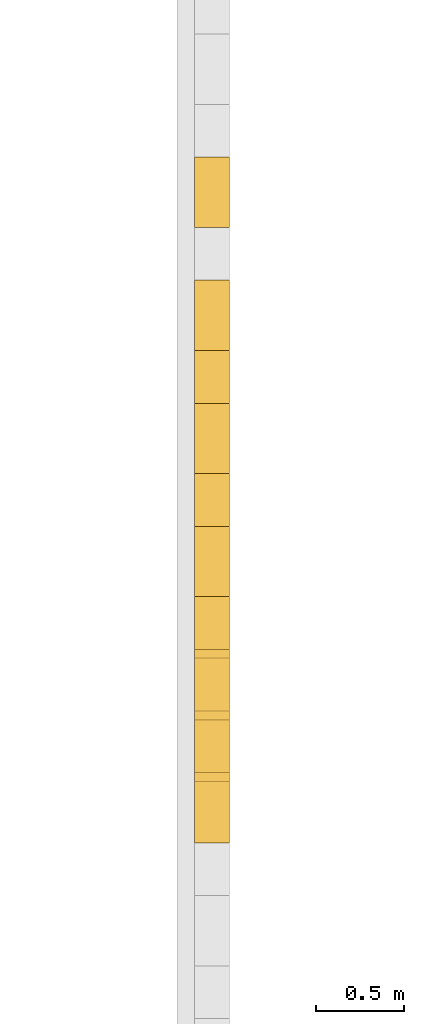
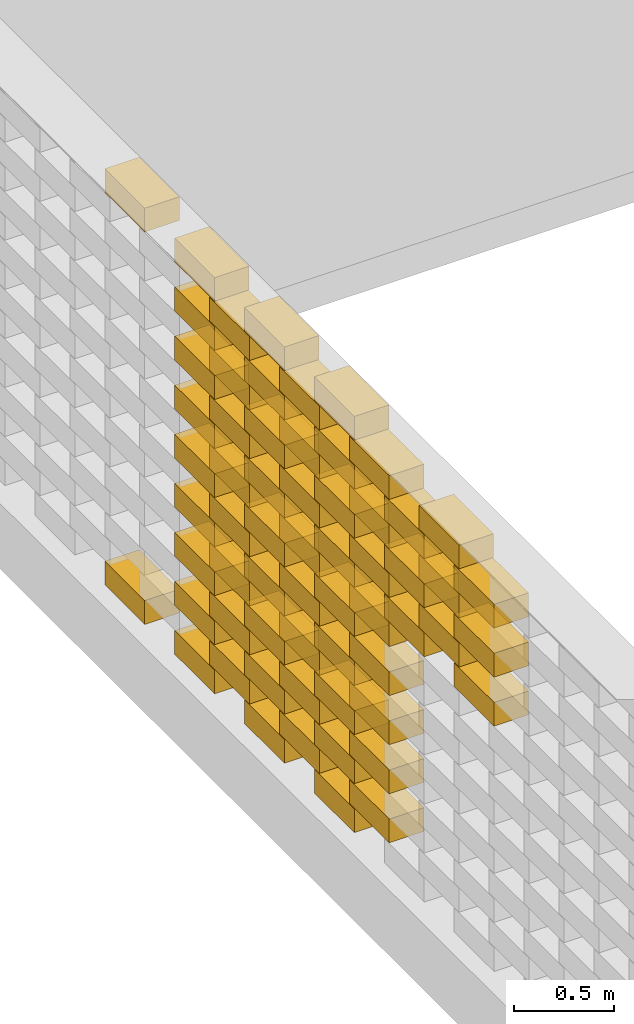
# One storey, part 45 of 62: 73 railings.
"""IFC2X3 building model written with IfcOpenShell, lengths in millimetres."""

from ifc_helpers import new_model, entity, si_unit, converted_unit, derived_unit, money_unit, direction, frame, origin_with_axes, place, context, subcontext, project, spatial, polyline, outline, extrude, material, type_object, element, save


model = new_model("IFC2X3")

# Units and contexts
model_context = context("Model", 3, precision=0.01, world=origin_with_axes(), true_north=direction((0.0, 1.0)))
body_context = subcontext(model_context, "Body", "Model", "MODEL_VIEW")
ifc_project = project(units=[si_unit("LENGTHUNIT", "METRE", prefix="MILLI"), si_unit("AREAUNIT", "SQUARE_METRE"), si_unit("VOLUMEUNIT", "CUBIC_METRE"), converted_unit("PLANEANGLEUNIT", "DEGREE", entity("IfcPlaneAngleMeasure", 0.0174532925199), si_unit("PLANEANGLEUNIT", "RADIAN"), dimensions=[0, 0, 0, 0, 0, 0, 0]), si_unit("SOLIDANGLEUNIT", "STERADIAN"), money_unit("EUR"), converted_unit("TIMEUNIT", "Year", entity("IfcTimeMeasure", 31556926.0), si_unit("TIMEUNIT", "SECOND"), dimensions=[0, 0, 1, 0, 0, 0, 0]), si_unit("MASSUNIT", "GRAM", prefix="KILO"), si_unit("THERMODYNAMICTEMPERATUREUNIT", "DEGREE_CELSIUS"), si_unit("LUMINOUSINTENSITYUNIT", "LUMEN"), si_unit("ENERGYUNIT", "JOULE", prefix="MEGA"), derived_unit("THERMALCONDUCTANCEUNIT", [(si_unit("POWERUNIT", "WATT"), 1), (si_unit("LENGTHUNIT", "METRE"), -1), (si_unit("THERMODYNAMICTEMPERATUREUNIT", "KELVIN"), -1)]), derived_unit("SPECIFICHEATCAPACITYUNIT", [(si_unit("ENERGYUNIT", "JOULE"), 1), (si_unit("MASSUNIT", "GRAM", prefix="KILO"), -1), (si_unit("THERMODYNAMICTEMPERATUREUNIT", "KELVIN"), -1)]), derived_unit("MASSDENSITYUNIT", [(si_unit("MASSUNIT", "GRAM", prefix="KILO"), 1), (si_unit("VOLUMEUNIT", "CUBIC_METRE"), -1)])], contexts=[model_context])

# Site, building, storey
site_placement = place(None, origin_with_axes())
site = spatial("IfcSite", under=ifc_project, at=site_placement, Name="KIRDE 14, ELVA", CompositionType="ELEMENT")
building_placement = place(site_placement, origin_with_axes())
building = spatial("IfcBuilding", under=site, at=building_placement, Name="PPA ja Päästeameti ühishoone", CompositionType="ELEMENT")
storey_placement = place(building_placement, origin_with_axes())
storey = spatial("IfcBuildingStorey", under=building, at=storey_placement, Name="Esimene korrus", CompositionType="ELEMENT", Elevation=0.0)

# Railings
ifc_material = material(Name="Air Space")
railing_type = type_object("IfcRailingType", Name="Air Space 200", PredefinedType="NOTDEFINED")
railing_1_placement = place(storey_placement, frame((620.000150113, -4123.83983919, 2800.0), z_axis=(0.0, 0.0, 1.0), x_axis=(-8.73114908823e-10, -1.0, 0.0)))
element("IfcRailing", 1, at=railing_1_placement, inside=storey, type_object=railing_type, material=ifc_material, Name="plokk", PredefinedType="NOTDEFINED", context=body_context, shape_type="SweptSolid", body=[
    extrude(outline(polyline([(0.0, 0.0), (400.000002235, 0.0), (400.000002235, 200.0), (0.0, 200.0), (0.0, 0.0)])), origin_with_axes(), (0.0, 0.0, 1.0), 145.0),
])
railing_2_placement = place(storey_placement, frame((620.000150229, -4823.83984124, 2800.0), z_axis=(0.0, 0.0, 1.0), x_axis=(-5.82076611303e-10, -1.0, 0.0)))
element("IfcRailing", 2, at=railing_2_placement, inside=storey, type_object=railing_type, material=ifc_material, Name="plokk", PredefinedType="NOTDEFINED", context=body_context, shape_type="SweptSolid", body=[
    extrude(outline(polyline([(0.0, 0.0), (399.99999851, 0.0), (399.99999851, 200.0), (0.0, 200.0), (0.0, 0.0)])), origin_with_axes(), (0.0, 0.0, 1.0), 145.0),
])
railing_3_placement = place(storey_placement, frame((620.000149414, -3423.83983901, 2800.0), z_axis=(0.0, 0.0, 1.0), x_axis=(1.30967236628e-09, -1.0, 0.0)))
element("IfcRailing", 3, at=railing_3_placement, inside=storey, type_object=railing_type, material=ifc_material, Name="plokk", PredefinedType="NOTDEFINED", context=body_context, shape_type="SweptSolid", body=[
    extrude(outline(polyline([(0.0, 0.0), (400.000001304, 0.0), (400.000001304, 200.0), (0.0, 200.0), (0.0, 0.0)])), origin_with_axes(), (0.0, 0.0, 1.0), 145.0),
])
for number, where, z_axis, x_axis in (
    (4, (620.000149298, -2723.83983975, 2800.0), (0.0, 0.0, 1.0), (1.45519152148e-09, -1.0, 0.0)),
    (5, (620.000149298, -2723.83983975, 400.0), (0.0, 0.0, 1.0), (1.45519152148e-09, -1.0, 0.0)),
):
    element("IfcRailing", number, at=place(storey_placement, frame(where, z_axis=z_axis, x_axis=x_axis)), inside=storey, type_object=railing_type, material=ifc_material, Name="plokk", PredefinedType="NOTDEFINED", context=body_context, shape_type="SweptSolid", body=[
        extrude(outline(polyline([(0.0, 0.0), (400.000000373, 0.0), (400.000000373, 200.0), (0.0, 200.0), (0.0, 0.0)])), origin_with_axes(), (0.0, 0.0, 1.0), 145.0),
    ])
railing_4_placement = place(storey_placement, frame((620.000149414, -3423.83983901, 400.0), z_axis=(0.0, 0.0, 1.0), x_axis=(1.30967236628e-09, -1.0, 0.0)))
element("IfcRailing", 6, at=railing_4_placement, inside=storey, type_object=railing_type, material=ifc_material, Name="plokk", PredefinedType="NOTDEFINED", context=body_context, shape_type="SweptSolid", body=[
    extrude(outline(polyline([(0.0, 0.0), (400.000001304, 0.0), (400.000001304, 200.0), (0.0, 200.0), (0.0, 0.0)])), origin_with_axes(), (0.0, 0.0, 1.0), 145.0),
])
railing_5_placement = place(storey_placement, frame((620.000150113, -4123.83983919, 400.0), z_axis=(0.0, 0.0, 1.0), x_axis=(-8.73114908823e-10, -1.0, 0.0)))
element("IfcRailing", 7, at=railing_5_placement, inside=storey, type_object=railing_type, material=ifc_material, Name="plokk", PredefinedType="NOTDEFINED", context=body_context, shape_type="SweptSolid", body=[
    extrude(outline(polyline([(0.0, 0.0), (400.000002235, 0.0), (400.000002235, 200.0), (0.0, 200.0), (0.0, 0.0)])), origin_with_axes(), (0.0, 0.0, 1.0), 145.0),
])
for number, where, z_axis, x_axis in (
    (8, (620.000150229, -4823.83984124, 400.0), (0.0, 0.0, 1.0), (-5.82076611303e-10, -1.0, 0.0)),
    (9, (620.00014988, -3773.8398405, 550.0), (0.0, 0.0, 1.0), (1.74622983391e-09, -1.0, 0.0)),
):
    element("IfcRailing", number, at=place(storey_placement, frame(where, z_axis=z_axis, x_axis=x_axis)), inside=storey, type_object=railing_type, material=ifc_material, Name="plokk", PredefinedType="NOTDEFINED", context=body_context, shape_type="SweptSolid", body=[
        extrude(outline(polyline([(0.0, 0.0), (399.99999851, 0.0), (399.99999851, 200.0), (0.0, 200.0), (0.0, 0.0)])), origin_with_axes(), (0.0, 0.0, 1.0), 145.0),
    ])
railing_6_placement = place(storey_placement, frame((620.000149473, -4473.83983975, 550.0), z_axis=(0.0, 0.0, 1.0), x_axis=(7.27595760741e-10, -1.0, 0.0)))
element("IfcRailing", 10, at=railing_6_placement, inside=storey, type_object=railing_type, material=ifc_material, Name="plokk", PredefinedType="NOTDEFINED", context=body_context, shape_type="SweptSolid", body=[
    extrude(outline(polyline([(0.0, 0.0), (400.000000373, 0.0), (400.000000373, 200.0), (0.0, 200.0), (0.0, 0.0)])), origin_with_axes(), (0.0, 0.0, 1.0), 145.0),
])
for number, where, z_axis, x_axis in (
    (11, (620.000150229, -5173.83983901, 550.0), (0.0, 0.0, 1.0), (1.16415321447e-09, -1.0, 0.0)),
    (12, (620.000149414, -3423.83983901, 700.0), (0.0, 0.0, 1.0), (1.30967236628e-09, -1.0, 0.0)),
):
    element("IfcRailing", number, at=place(storey_placement, frame(where, z_axis=z_axis, x_axis=x_axis)), inside=storey, type_object=railing_type, material=ifc_material, Name="plokk", PredefinedType="NOTDEFINED", context=body_context, shape_type="SweptSolid", body=[
        extrude(outline(polyline([(0.0, 0.0), (400.000001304, 0.0), (400.000001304, 200.0), (0.0, 200.0), (0.0, 0.0)])), origin_with_axes(), (0.0, 0.0, 1.0), 145.0),
    ])
railing_7_placement = place(storey_placement, frame((620.000150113, -4123.83983919, 700.0), z_axis=(0.0, 0.0, 1.0), x_axis=(-8.73114908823e-10, -1.0, 0.0)))
element("IfcRailing", 13, at=railing_7_placement, inside=storey, type_object=railing_type, material=ifc_material, Name="plokk", PredefinedType="NOTDEFINED", context=body_context, shape_type="SweptSolid", body=[
    extrude(outline(polyline([(0.0, 0.0), (400.000002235, 0.0), (400.000002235, 200.0), (0.0, 200.0), (0.0, 0.0)])), origin_with_axes(), (0.0, 0.0, 1.0), 145.0),
])
for number, where, z_axis, x_axis in (
    (14, (620.000150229, -4823.83984124, 700.0), (0.0, 0.0, 1.0), (-5.82076611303e-10, -1.0, 0.0)),
    (15, (620.00014988, -3773.8398405, 850.0), (0.0, 0.0, 1.0), (1.74622983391e-09, -1.0, 0.0)),
):
    element("IfcRailing", number, at=place(storey_placement, frame(where, z_axis=z_axis, x_axis=x_axis)), inside=storey, type_object=railing_type, material=ifc_material, Name="plokk", PredefinedType="NOTDEFINED", context=body_context, shape_type="SweptSolid", body=[
        extrude(outline(polyline([(0.0, 0.0), (399.99999851, 0.0), (399.99999851, 200.0), (0.0, 200.0), (0.0, 0.0)])), origin_with_axes(), (0.0, 0.0, 1.0), 145.0),
    ])
railing_8_placement = place(storey_placement, frame((620.000149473, -4473.83983975, 850.0), z_axis=(0.0, 0.0, 1.0), x_axis=(7.27595760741e-10, -1.0, 0.0)))
element("IfcRailing", 16, at=railing_8_placement, inside=storey, type_object=railing_type, material=ifc_material, Name="plokk", PredefinedType="NOTDEFINED", context=body_context, shape_type="SweptSolid", body=[
    extrude(outline(polyline([(0.0, 0.0), (400.000000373, 0.0), (400.000000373, 200.0), (0.0, 200.0), (0.0, 0.0)])), origin_with_axes(), (0.0, 0.0, 1.0), 145.0),
])
for number, where, z_axis, x_axis in (
    (17, (620.000150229, -5173.83983901, 850.0), (0.0, 0.0, 1.0), (1.16415321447e-09, -1.0, 0.0)),
    (18, (620.000149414, -3423.83983901, 1000.0), (0.0, 0.0, 1.0), (1.30967236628e-09, -1.0, 0.0)),
):
    element("IfcRailing", number, at=place(storey_placement, frame(where, z_axis=z_axis, x_axis=x_axis)), inside=storey, type_object=railing_type, material=ifc_material, Name="plokk", PredefinedType="NOTDEFINED", context=body_context, shape_type="SweptSolid", body=[
        extrude(outline(polyline([(0.0, 0.0), (400.000001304, 0.0), (400.000001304, 200.0), (0.0, 200.0), (0.0, 0.0)])), origin_with_axes(), (0.0, 0.0, 1.0), 145.0),
    ])
railing_9_placement = place(storey_placement, frame((620.000150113, -4123.83983919, 1000.0), z_axis=(0.0, 0.0, 1.0), x_axis=(-8.73114908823e-10, -1.0, 0.0)))
element("IfcRailing", 19, at=railing_9_placement, inside=storey, type_object=railing_type, material=ifc_material, Name="plokk", PredefinedType="NOTDEFINED", context=body_context, shape_type="SweptSolid", body=[
    extrude(outline(polyline([(0.0, 0.0), (400.000002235, 0.0), (400.000002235, 200.0), (0.0, 200.0), (0.0, 0.0)])), origin_with_axes(), (0.0, 0.0, 1.0), 145.0),
])
railing_10_placement = place(storey_placement, frame((620.000150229, -4823.83984124, 1000.0), z_axis=(0.0, 0.0, 1.0), x_axis=(-5.82076611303e-10, -1.0, 0.0)))
element("IfcRailing", 20, at=railing_10_placement, inside=storey, type_object=railing_type, material=ifc_material, Name="plokk", PredefinedType="NOTDEFINED", context=body_context, shape_type="SweptSolid", body=[
    extrude(outline(polyline([(0.0, 0.0), (399.99999851, 0.0), (399.99999851, 200.0), (0.0, 200.0), (0.0, 0.0)])), origin_with_axes(), (0.0, 0.0, 1.0), 145.0),
])
railing_11_placement = place(storey_placement, frame((620.000149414, -3423.83983901, 1000.0), z_axis=(0.0, 0.0, 1.0), x_axis=(1.30967236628e-09, -1.0, 0.0)))
element("IfcRailing", 21, at=railing_11_placement, inside=storey, type_object=railing_type, material=ifc_material, Name="plokk", PredefinedType="NOTDEFINED", context=body_context, shape_type="SweptSolid", body=[
    extrude(outline(polyline([(0.0, 0.0), (400.000001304, 0.0), (400.000001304, 200.0), (0.0, 200.0), (0.0, 0.0)])), origin_with_axes(), (0.0, 0.0, 1.0), 145.0),
])
railing_12_placement = place(storey_placement, frame((620.000150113, -4123.83983919, 1000.0), z_axis=(0.0, 0.0, 1.0), x_axis=(-8.73114908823e-10, -1.0, 0.0)))
element("IfcRailing", 22, at=railing_12_placement, inside=storey, type_object=railing_type, material=ifc_material, Name="plokk", PredefinedType="NOTDEFINED", context=body_context, shape_type="SweptSolid", body=[
    extrude(outline(polyline([(0.0, 0.0), (400.000002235, 0.0), (400.000002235, 200.0), (0.0, 200.0), (0.0, 0.0)])), origin_with_axes(), (0.0, 0.0, 1.0), 145.0),
])
for number, where, z_axis, x_axis in (
    (23, (620.000150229, -4823.83984124, 1000.0), (0.0, 0.0, 1.0), (-5.82076611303e-10, -1.0, 0.0)),
    (24, (620.00014988, -3773.8398405, 1150.0), (0.0, 0.0, 1.0), (1.74622983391e-09, -1.0, 0.0)),
):
    element("IfcRailing", number, at=place(storey_placement, frame(where, z_axis=z_axis, x_axis=x_axis)), inside=storey, type_object=railing_type, material=ifc_material, Name="plokk", PredefinedType="NOTDEFINED", context=body_context, shape_type="SweptSolid", body=[
        extrude(outline(polyline([(0.0, 0.0), (399.99999851, 0.0), (399.99999851, 200.0), (0.0, 200.0), (0.0, 0.0)])), origin_with_axes(), (0.0, 0.0, 1.0), 145.0),
    ])
railing_13_placement = place(storey_placement, frame((620.000149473, -4473.83983975, 1150.0), z_axis=(0.0, 0.0, 1.0), x_axis=(7.27595760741e-10, -1.0, 0.0)))
element("IfcRailing", 25, at=railing_13_placement, inside=storey, type_object=railing_type, material=ifc_material, Name="plokk", PredefinedType="NOTDEFINED", context=body_context, shape_type="SweptSolid", body=[
    extrude(outline(polyline([(0.0, 0.0), (400.000000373, 0.0), (400.000000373, 200.0), (0.0, 200.0), (0.0, 0.0)])), origin_with_axes(), (0.0, 0.0, 1.0), 145.0),
])
for number, where, z_axis, x_axis in (
    (26, (620.000150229, -5173.83983901, 1150.0), (0.0, 0.0, 1.0), (1.16415321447e-09, -1.0, 0.0)),
    (27, (620.000149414, -3423.83983901, 1300.0), (0.0, 0.0, 1.0), (1.30967236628e-09, -1.0, 0.0)),
):
    element("IfcRailing", number, at=place(storey_placement, frame(where, z_axis=z_axis, x_axis=x_axis)), inside=storey, type_object=railing_type, material=ifc_material, Name="plokk", PredefinedType="NOTDEFINED", context=body_context, shape_type="SweptSolid", body=[
        extrude(outline(polyline([(0.0, 0.0), (400.000001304, 0.0), (400.000001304, 200.0), (0.0, 200.0), (0.0, 0.0)])), origin_with_axes(), (0.0, 0.0, 1.0), 145.0),
    ])
railing_14_placement = place(storey_placement, frame((620.000150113, -4123.83983919, 1300.0), z_axis=(0.0, 0.0, 1.0), x_axis=(-8.73114908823e-10, -1.0, 0.0)))
element("IfcRailing", 28, at=railing_14_placement, inside=storey, type_object=railing_type, material=ifc_material, Name="plokk", PredefinedType="NOTDEFINED", context=body_context, shape_type="SweptSolid", body=[
    extrude(outline(polyline([(0.0, 0.0), (400.000002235, 0.0), (400.000002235, 200.0), (0.0, 200.0), (0.0, 0.0)])), origin_with_axes(), (0.0, 0.0, 1.0), 145.0),
])
for number, where, z_axis, x_axis in (
    (29, (620.000150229, -4823.83984124, 1300.0), (0.0, 0.0, 1.0), (-5.82076611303e-10, -1.0, 0.0)),
    (30, (620.00014988, -3773.8398405, 1450.0), (0.0, 0.0, 1.0), (1.74622983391e-09, -1.0, 0.0)),
):
    element("IfcRailing", number, at=place(storey_placement, frame(where, z_axis=z_axis, x_axis=x_axis)), inside=storey, type_object=railing_type, material=ifc_material, Name="plokk", PredefinedType="NOTDEFINED", context=body_context, shape_type="SweptSolid", body=[
        extrude(outline(polyline([(0.0, 0.0), (399.99999851, 0.0), (399.99999851, 200.0), (0.0, 200.0), (0.0, 0.0)])), origin_with_axes(), (0.0, 0.0, 1.0), 145.0),
    ])
railing_15_placement = place(storey_placement, frame((620.000149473, -4473.83983975, 1450.0), z_axis=(0.0, 0.0, 1.0), x_axis=(7.27595760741e-10, -1.0, 0.0)))
element("IfcRailing", 31, at=railing_15_placement, inside=storey, type_object=railing_type, material=ifc_material, Name="plokk", PredefinedType="NOTDEFINED", context=body_context, shape_type="SweptSolid", body=[
    extrude(outline(polyline([(0.0, 0.0), (400.000000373, 0.0), (400.000000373, 200.0), (0.0, 200.0), (0.0, 0.0)])), origin_with_axes(), (0.0, 0.0, 1.0), 145.0),
])
for number, where, z_axis, x_axis in (
    (32, (620.000150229, -5173.83983901, 1450.0), (0.0, 0.0, 1.0), (1.16415321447e-09, -1.0, 0.0)),
    (33, (620.000149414, -3423.83983901, 1600.0), (0.0, 0.0, 1.0), (1.30967236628e-09, -1.0, 0.0)),
):
    element("IfcRailing", number, at=place(storey_placement, frame(where, z_axis=z_axis, x_axis=x_axis)), inside=storey, type_object=railing_type, material=ifc_material, Name="plokk", PredefinedType="NOTDEFINED", context=body_context, shape_type="SweptSolid", body=[
        extrude(outline(polyline([(0.0, 0.0), (400.000001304, 0.0), (400.000001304, 200.0), (0.0, 200.0), (0.0, 0.0)])), origin_with_axes(), (0.0, 0.0, 1.0), 145.0),
    ])
railing_16_placement = place(storey_placement, frame((620.000150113, -4123.83983919, 1600.0), z_axis=(0.0, 0.0, 1.0), x_axis=(-8.73114908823e-10, -1.0, 0.0)))
element("IfcRailing", 34, at=railing_16_placement, inside=storey, type_object=railing_type, material=ifc_material, Name="plokk", PredefinedType="NOTDEFINED", context=body_context, shape_type="SweptSolid", body=[
    extrude(outline(polyline([(0.0, 0.0), (400.000002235, 0.0), (400.000002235, 200.0), (0.0, 200.0), (0.0, 0.0)])), origin_with_axes(), (0.0, 0.0, 1.0), 145.0),
])
railing_17_placement = place(storey_placement, frame((620.000150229, -4823.83984124, 1600.0), z_axis=(0.0, 0.0, 1.0), x_axis=(-5.82076611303e-10, -1.0, 0.0)))
element("IfcRailing", 35, at=railing_17_placement, inside=storey, type_object=railing_type, material=ifc_material, Name="plokk", PredefinedType="NOTDEFINED", context=body_context, shape_type="SweptSolid", body=[
    extrude(outline(polyline([(0.0, 0.0), (399.99999851, 0.0), (399.99999851, 200.0), (0.0, 200.0), (0.0, 0.0)])), origin_with_axes(), (0.0, 0.0, 1.0), 145.0),
])
railing_18_placement = place(storey_placement, frame((620.000149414, -3423.83983901, 1600.0), z_axis=(0.0, 0.0, 1.0), x_axis=(1.30967236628e-09, -1.0, 0.0)))
element("IfcRailing", 36, at=railing_18_placement, inside=storey, type_object=railing_type, material=ifc_material, Name="plokk", PredefinedType="NOTDEFINED", context=body_context, shape_type="SweptSolid", body=[
    extrude(outline(polyline([(0.0, 0.0), (400.000001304, 0.0), (400.000001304, 200.0), (0.0, 200.0), (0.0, 0.0)])), origin_with_axes(), (0.0, 0.0, 1.0), 145.0),
])
railing_19_placement = place(storey_placement, frame((620.000150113, -4123.83983919, 1600.0), z_axis=(0.0, 0.0, 1.0), x_axis=(-8.73114908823e-10, -1.0, 0.0)))
element("IfcRailing", 37, at=railing_19_placement, inside=storey, type_object=railing_type, material=ifc_material, Name="plokk", PredefinedType="NOTDEFINED", context=body_context, shape_type="SweptSolid", body=[
    extrude(outline(polyline([(0.0, 0.0), (400.000002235, 0.0), (400.000002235, 200.0), (0.0, 200.0), (0.0, 0.0)])), origin_with_axes(), (0.0, 0.0, 1.0), 145.0),
])
for number, where, z_axis, x_axis in (
    (38, (620.000150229, -4823.83984124, 1600.0), (0.0, 0.0, 1.0), (-5.82076611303e-10, -1.0, 0.0)),
    (39, (620.00014988, -3773.8398405, 1750.0), (0.0, 0.0, 1.0), (1.74622983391e-09, -1.0, 0.0)),
):
    element("IfcRailing", number, at=place(storey_placement, frame(where, z_axis=z_axis, x_axis=x_axis)), inside=storey, type_object=railing_type, material=ifc_material, Name="plokk", PredefinedType="NOTDEFINED", context=body_context, shape_type="SweptSolid", body=[
        extrude(outline(polyline([(0.0, 0.0), (399.99999851, 0.0), (399.99999851, 200.0), (0.0, 200.0), (0.0, 0.0)])), origin_with_axes(), (0.0, 0.0, 1.0), 145.0),
    ])
railing_20_placement = place(storey_placement, frame((620.000149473, -4473.83983975, 1750.0), z_axis=(0.0, 0.0, 1.0), x_axis=(7.27595760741e-10, -1.0, 0.0)))
element("IfcRailing", 40, at=railing_20_placement, inside=storey, type_object=railing_type, material=ifc_material, Name="plokk", PredefinedType="NOTDEFINED", context=body_context, shape_type="SweptSolid", body=[
    extrude(outline(polyline([(0.0, 0.0), (400.000000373, 0.0), (400.000000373, 200.0), (0.0, 200.0), (0.0, 0.0)])), origin_with_axes(), (0.0, 0.0, 1.0), 145.0),
])
for number, where, z_axis, x_axis in (
    (41, (620.000150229, -5173.83983901, 1750.0), (0.0, 0.0, 1.0), (1.16415321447e-09, -1.0, 0.0)),
    (42, (620.000149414, -3423.83983901, 1900.0), (0.0, 0.0, 1.0), (1.30967236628e-09, -1.0, 0.0)),
):
    element("IfcRailing", number, at=place(storey_placement, frame(where, z_axis=z_axis, x_axis=x_axis)), inside=storey, type_object=railing_type, material=ifc_material, Name="plokk", PredefinedType="NOTDEFINED", context=body_context, shape_type="SweptSolid", body=[
        extrude(outline(polyline([(0.0, 0.0), (400.000001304, 0.0), (400.000001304, 200.0), (0.0, 200.0), (0.0, 0.0)])), origin_with_axes(), (0.0, 0.0, 1.0), 145.0),
    ])
railing_21_placement = place(storey_placement, frame((620.000150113, -4123.83983919, 1900.0), z_axis=(0.0, 0.0, 1.0), x_axis=(-8.73114908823e-10, -1.0, 0.0)))
element("IfcRailing", 43, at=railing_21_placement, inside=storey, type_object=railing_type, material=ifc_material, Name="plokk", PredefinedType="NOTDEFINED", context=body_context, shape_type="SweptSolid", body=[
    extrude(outline(polyline([(0.0, 0.0), (400.000002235, 0.0), (400.000002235, 200.0), (0.0, 200.0), (0.0, 0.0)])), origin_with_axes(), (0.0, 0.0, 1.0), 145.0),
])
for number, where, z_axis, x_axis in (
    (44, (620.000150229, -4823.83984124, 1900.0), (0.0, 0.0, 1.0), (-5.82076611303e-10, -1.0, 0.0)),
    (45, (620.000149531, -5523.83984143, 1900.0), (0.0, 0.0, 1.0), (1.30967237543e-09, -1.0, 0.0)),
):
    element("IfcRailing", number, at=place(storey_placement, frame(where, z_axis=z_axis, x_axis=x_axis)), inside=storey, type_object=railing_type, material=ifc_material, Name="plokk", PredefinedType="NOTDEFINED", context=body_context, shape_type="SweptSolid", body=[
        extrude(outline(polyline([(0.0, 0.0), (399.99999851, 0.0), (399.99999851, 200.0), (0.0, 200.0), (0.0, 0.0)])), origin_with_axes(), (0.0, 0.0, 1.0), 145.0),
    ])
railing_22_placement = place(storey_placement, frame((620.000150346, -6223.83984068, 1900.0), z_axis=(0.0, 0.0, 1.0), x_axis=(5.82076609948e-10, -1.0, 0.0)))
element("IfcRailing", 46, at=railing_22_placement, inside=storey, type_object=railing_type, material=ifc_material, Name="plokk", PredefinedType="NOTDEFINED", context=body_context, shape_type="SweptSolid", body=[
    extrude(outline(polyline([(0.0, 0.0), (399.999999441, 0.0), (399.999999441, 200.0), (0.0, 200.0), (0.0, 0.0)])), origin_with_axes(), (0.0, 0.0, 1.0), 145.0),
])
railing_23_placement = place(storey_placement, frame((620.00014988, -3773.8398405, 2050.0), z_axis=(0.0, 0.0, 1.0), x_axis=(1.74622983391e-09, -1.0, 0.0)))
element("IfcRailing", 47, at=railing_23_placement, inside=storey, type_object=railing_type, material=ifc_material, Name="plokk", PredefinedType="NOTDEFINED", context=body_context, shape_type="SweptSolid", body=[
    extrude(outline(polyline([(0.0, 0.0), (399.99999851, 0.0), (399.99999851, 200.0), (0.0, 200.0), (0.0, 0.0)])), origin_with_axes(), (0.0, 0.0, 1.0), 145.0),
])
railing_24_placement = place(storey_placement, frame((620.000149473, -4473.83983975, 2050.0), z_axis=(0.0, 0.0, 1.0), x_axis=(7.27595760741e-10, -1.0, 0.0)))
element("IfcRailing", 48, at=railing_24_placement, inside=storey, type_object=railing_type, material=ifc_material, Name="plokk", PredefinedType="NOTDEFINED", context=body_context, shape_type="SweptSolid", body=[
    extrude(outline(polyline([(0.0, 0.0), (400.000000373, 0.0), (400.000000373, 200.0), (0.0, 200.0), (0.0, 0.0)])), origin_with_axes(), (0.0, 0.0, 1.0), 145.0),
])
railing_25_placement = place(storey_placement, frame((620.000150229, -5173.83983901, 2050.0), z_axis=(0.0, 0.0, 1.0), x_axis=(1.16415321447e-09, -1.0, 0.0)))
element("IfcRailing", 49, at=railing_25_placement, inside=storey, type_object=railing_type, material=ifc_material, Name="plokk", PredefinedType="NOTDEFINED", context=body_context, shape_type="SweptSolid", body=[
    extrude(outline(polyline([(0.0, 0.0), (400.000001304, 0.0), (400.000001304, 200.0), (0.0, 200.0), (0.0, 0.0)])), origin_with_axes(), (0.0, 0.0, 1.0), 145.0),
])
railing_26_placement = place(storey_placement, frame((620.000150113, -5873.83984013, 2050.0), z_axis=(0.0, 0.0, 1.0), x_axis=(0.0, -1.0, 0.0)))
element("IfcRailing", 50, at=railing_26_placement, inside=storey, type_object=railing_type, material=ifc_material, Name="plokk", PredefinedType="NOTDEFINED", context=body_context, shape_type="SweptSolid", body=[
    extrude(outline(polyline([(0.0, 0.0), (400.000000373, 0.0), (400.000000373, 200.0), (0.0, 200.0), (0.0, 0.0)])), origin_with_axes(), (0.0, 0.0, 1.0), 145.0),
])
railing_27_placement = place(storey_placement, frame((620.000149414, -3423.83983901, 2200.0), z_axis=(0.0, 0.0, 1.0), x_axis=(1.30967236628e-09, -1.0, 0.0)))
element("IfcRailing", 51, at=railing_27_placement, inside=storey, type_object=railing_type, material=ifc_material, Name="plokk", PredefinedType="NOTDEFINED", context=body_context, shape_type="SweptSolid", body=[
    extrude(outline(polyline([(0.0, 0.0), (400.000001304, 0.0), (400.000001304, 200.0), (0.0, 200.0), (0.0, 0.0)])), origin_with_axes(), (0.0, 0.0, 1.0), 145.0),
])
railing_28_placement = place(storey_placement, frame((620.000150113, -4123.83983919, 2200.0), z_axis=(0.0, 0.0, 1.0), x_axis=(-8.73114908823e-10, -1.0, 0.0)))
element("IfcRailing", 52, at=railing_28_placement, inside=storey, type_object=railing_type, material=ifc_material, Name="plokk", PredefinedType="NOTDEFINED", context=body_context, shape_type="SweptSolid", body=[
    extrude(outline(polyline([(0.0, 0.0), (400.000002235, 0.0), (400.000002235, 200.0), (0.0, 200.0), (0.0, 0.0)])), origin_with_axes(), (0.0, 0.0, 1.0), 145.0),
])
for number, where, z_axis, x_axis in (
    (53, (620.000150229, -4823.83984124, 2200.0), (0.0, 0.0, 1.0), (-5.82076611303e-10, -1.0, 0.0)),
    (54, (620.000149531, -5523.83984143, 2200.0), (0.0, 0.0, 1.0), (1.30967237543e-09, -1.0, 0.0)),
):
    element("IfcRailing", number, at=place(storey_placement, frame(where, z_axis=z_axis, x_axis=x_axis)), inside=storey, type_object=railing_type, material=ifc_material, Name="plokk", PredefinedType="NOTDEFINED", context=body_context, shape_type="SweptSolid", body=[
        extrude(outline(polyline([(0.0, 0.0), (399.99999851, 0.0), (399.99999851, 200.0), (0.0, 200.0), (0.0, 0.0)])), origin_with_axes(), (0.0, 0.0, 1.0), 145.0),
    ])
railing_29_placement = place(storey_placement, frame((620.000150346, -6223.83984068, 2200.0), z_axis=(0.0, 0.0, 1.0), x_axis=(5.82076609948e-10, -1.0, 0.0)))
element("IfcRailing", 55, at=railing_29_placement, inside=storey, type_object=railing_type, material=ifc_material, Name="plokk", PredefinedType="NOTDEFINED", context=body_context, shape_type="SweptSolid", body=[
    extrude(outline(polyline([(0.0, 0.0), (399.999999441, 0.0), (399.999999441, 200.0), (0.0, 200.0), (0.0, 0.0)])), origin_with_axes(), (0.0, 0.0, 1.0), 145.0),
])
railing_30_placement = place(storey_placement, frame((620.000149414, -3423.83983901, 2200.0), z_axis=(0.0, 0.0, 1.0), x_axis=(1.30967236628e-09, -1.0, 0.0)))
element("IfcRailing", 56, at=railing_30_placement, inside=storey, type_object=railing_type, material=ifc_material, Name="plokk", PredefinedType="NOTDEFINED", context=body_context, shape_type="SweptSolid", body=[
    extrude(outline(polyline([(0.0, 0.0), (400.000001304, 0.0), (400.000001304, 200.0), (0.0, 200.0), (0.0, 0.0)])), origin_with_axes(), (0.0, 0.0, 1.0), 145.0),
])
railing_31_placement = place(storey_placement, frame((620.000150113, -4123.83983919, 2200.0), z_axis=(0.0, 0.0, 1.0), x_axis=(-8.73114908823e-10, -1.0, 0.0)))
element("IfcRailing", 57, at=railing_31_placement, inside=storey, type_object=railing_type, material=ifc_material, Name="plokk", PredefinedType="NOTDEFINED", context=body_context, shape_type="SweptSolid", body=[
    extrude(outline(polyline([(0.0, 0.0), (400.000002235, 0.0), (400.000002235, 200.0), (0.0, 200.0), (0.0, 0.0)])), origin_with_axes(), (0.0, 0.0, 1.0), 145.0),
])
for number, where, z_axis, x_axis in (
    (58, (620.000150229, -4823.83984124, 2200.0), (0.0, 0.0, 1.0), (-5.82076611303e-10, -1.0, 0.0)),
    (59, (620.000149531, -5523.83984143, 2200.0), (0.0, 0.0, 1.0), (1.30967237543e-09, -1.0, 0.0)),
):
    element("IfcRailing", number, at=place(storey_placement, frame(where, z_axis=z_axis, x_axis=x_axis)), inside=storey, type_object=railing_type, material=ifc_material, Name="plokk", PredefinedType="NOTDEFINED", context=body_context, shape_type="SweptSolid", body=[
        extrude(outline(polyline([(0.0, 0.0), (399.99999851, 0.0), (399.99999851, 200.0), (0.0, 200.0), (0.0, 0.0)])), origin_with_axes(), (0.0, 0.0, 1.0), 145.0),
    ])
railing_32_placement = place(storey_placement, frame((620.000150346, -6223.83984068, 2200.0), z_axis=(0.0, 0.0, 1.0), x_axis=(5.82076609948e-10, -1.0, 0.0)))
element("IfcRailing", 60, at=railing_32_placement, inside=storey, type_object=railing_type, material=ifc_material, Name="plokk", PredefinedType="NOTDEFINED", context=body_context, shape_type="SweptSolid", body=[
    extrude(outline(polyline([(0.0, 0.0), (399.999999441, 0.0), (399.999999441, 200.0), (0.0, 200.0), (0.0, 0.0)])), origin_with_axes(), (0.0, 0.0, 1.0), 145.0),
])
railing_33_placement = place(storey_placement, frame((620.00014988, -3773.8398405, 2350.0), z_axis=(0.0, 0.0, 1.0), x_axis=(1.74622983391e-09, -1.0, 0.0)))
element("IfcRailing", 61, at=railing_33_placement, inside=storey, type_object=railing_type, material=ifc_material, Name="plokk", PredefinedType="NOTDEFINED", context=body_context, shape_type="SweptSolid", body=[
    extrude(outline(polyline([(0.0, 0.0), (399.99999851, 0.0), (399.99999851, 200.0), (0.0, 200.0), (0.0, 0.0)])), origin_with_axes(), (0.0, 0.0, 1.0), 145.0),
])
railing_34_placement = place(storey_placement, frame((620.000149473, -4473.83983975, 2350.0), z_axis=(0.0, 0.0, 1.0), x_axis=(7.27595760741e-10, -1.0, 0.0)))
element("IfcRailing", 62, at=railing_34_placement, inside=storey, type_object=railing_type, material=ifc_material, Name="plokk", PredefinedType="NOTDEFINED", context=body_context, shape_type="SweptSolid", body=[
    extrude(outline(polyline([(0.0, 0.0), (400.000000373, 0.0), (400.000000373, 200.0), (0.0, 200.0), (0.0, 0.0)])), origin_with_axes(), (0.0, 0.0, 1.0), 145.0),
])
railing_35_placement = place(storey_placement, frame((620.000150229, -5173.83983901, 2350.0), z_axis=(0.0, 0.0, 1.0), x_axis=(1.16415321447e-09, -1.0, 0.0)))
element("IfcRailing", 63, at=railing_35_placement, inside=storey, type_object=railing_type, material=ifc_material, Name="plokk", PredefinedType="NOTDEFINED", context=body_context, shape_type="SweptSolid", body=[
    extrude(outline(polyline([(0.0, 0.0), (400.000001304, 0.0), (400.000001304, 200.0), (0.0, 200.0), (0.0, 0.0)])), origin_with_axes(), (0.0, 0.0, 1.0), 145.0),
])
railing_36_placement = place(storey_placement, frame((620.000150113, -5873.83984013, 2350.0), z_axis=(0.0, 0.0, 1.0), x_axis=(0.0, -1.0, 0.0)))
element("IfcRailing", 64, at=railing_36_placement, inside=storey, type_object=railing_type, material=ifc_material, Name="plokk", PredefinedType="NOTDEFINED", context=body_context, shape_type="SweptSolid", body=[
    extrude(outline(polyline([(0.0, 0.0), (400.000000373, 0.0), (400.000000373, 200.0), (0.0, 200.0), (0.0, 0.0)])), origin_with_axes(), (0.0, 0.0, 1.0), 145.0),
])
railing_37_placement = place(storey_placement, frame((620.000149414, -3423.83983901, 2500.0), z_axis=(0.0, 0.0, 1.0), x_axis=(1.30967236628e-09, -1.0, 0.0)))
element("IfcRailing", 65, at=railing_37_placement, inside=storey, type_object=railing_type, material=ifc_material, Name="plokk", PredefinedType="NOTDEFINED", context=body_context, shape_type="SweptSolid", body=[
    extrude(outline(polyline([(0.0, 0.0), (400.000001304, 0.0), (400.000001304, 200.0), (0.0, 200.0), (0.0, 0.0)])), origin_with_axes(), (0.0, 0.0, 1.0), 145.0),
])
railing_38_placement = place(storey_placement, frame((620.000150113, -4123.83983919, 2500.0), z_axis=(0.0, 0.0, 1.0), x_axis=(-8.73114908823e-10, -1.0, 0.0)))
element("IfcRailing", 66, at=railing_38_placement, inside=storey, type_object=railing_type, material=ifc_material, Name="plokk", PredefinedType="NOTDEFINED", context=body_context, shape_type="SweptSolid", body=[
    extrude(outline(polyline([(0.0, 0.0), (400.000002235, 0.0), (400.000002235, 200.0), (0.0, 200.0), (0.0, 0.0)])), origin_with_axes(), (0.0, 0.0, 1.0), 145.0),
])
for number, where, z_axis, x_axis in (
    (67, (620.000150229, -4823.83984124, 2500.0), (0.0, 0.0, 1.0), (-5.82076611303e-10, -1.0, 0.0)),
    (68, (620.000149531, -5523.83984143, 2500.0), (0.0, 0.0, 1.0), (1.30967237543e-09, -1.0, 0.0)),
):
    element("IfcRailing", number, at=place(storey_placement, frame(where, z_axis=z_axis, x_axis=x_axis)), inside=storey, type_object=railing_type, material=ifc_material, Name="plokk", PredefinedType="NOTDEFINED", context=body_context, shape_type="SweptSolid", body=[
        extrude(outline(polyline([(0.0, 0.0), (399.99999851, 0.0), (399.99999851, 200.0), (0.0, 200.0), (0.0, 0.0)])), origin_with_axes(), (0.0, 0.0, 1.0), 145.0),
    ])
railing_39_placement = place(storey_placement, frame((620.000150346, -6223.83984068, 2500.0), z_axis=(0.0, 0.0, 1.0), x_axis=(5.82076609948e-10, -1.0, 0.0)))
element("IfcRailing", 69, at=railing_39_placement, inside=storey, type_object=railing_type, material=ifc_material, Name="plokk", PredefinedType="NOTDEFINED", context=body_context, shape_type="SweptSolid", body=[
    extrude(outline(polyline([(0.0, 0.0), (399.999999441, 0.0), (399.999999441, 200.0), (0.0, 200.0), (0.0, 0.0)])), origin_with_axes(), (0.0, 0.0, 1.0), 145.0),
])
railing_40_placement = place(storey_placement, frame((620.00014988, -3773.8398405, 2650.0), z_axis=(0.0, 0.0, 1.0), x_axis=(1.74622983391e-09, -1.0, 0.0)))
element("IfcRailing", 70, at=railing_40_placement, inside=storey, type_object=railing_type, material=ifc_material, Name="plokk", PredefinedType="NOTDEFINED", context=body_context, shape_type="SweptSolid", body=[
    extrude(outline(polyline([(0.0, 0.0), (399.99999851, 0.0), (399.99999851, 200.0), (0.0, 200.0), (0.0, 0.0)])), origin_with_axes(), (0.0, 0.0, 1.0), 145.0),
])
railing_41_placement = place(storey_placement, frame((620.000149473, -4473.83983975, 2650.0), z_axis=(0.0, 0.0, 1.0), x_axis=(7.27595760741e-10, -1.0, 0.0)))
element("IfcRailing", 71, at=railing_41_placement, inside=storey, type_object=railing_type, material=ifc_material, Name="plokk", PredefinedType="NOTDEFINED", context=body_context, shape_type="SweptSolid", body=[
    extrude(outline(polyline([(0.0, 0.0), (400.000000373, 0.0), (400.000000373, 200.0), (0.0, 200.0), (0.0, 0.0)])), origin_with_axes(), (0.0, 0.0, 1.0), 145.0),
])
railing_42_placement = place(storey_placement, frame((620.000150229, -5173.83983901, 2650.0), z_axis=(0.0, 0.0, 1.0), x_axis=(1.16415321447e-09, -1.0, 0.0)))
element("IfcRailing", 72, at=railing_42_placement, inside=storey, type_object=railing_type, material=ifc_material, Name="plokk", PredefinedType="NOTDEFINED", context=body_context, shape_type="SweptSolid", body=[
    extrude(outline(polyline([(0.0, 0.0), (400.000001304, 0.0), (400.000001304, 200.0), (0.0, 200.0), (0.0, 0.0)])), origin_with_axes(), (0.0, 0.0, 1.0), 145.0),
])
railing_43_placement = place(storey_placement, frame((620.000150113, -5873.83984013, 2650.0), z_axis=(0.0, 0.0, 1.0), x_axis=(0.0, -1.0, 0.0)))
element("IfcRailing", 73, at=railing_43_placement, inside=storey, type_object=railing_type, material=ifc_material, Name="plokk", PredefinedType="NOTDEFINED", context=body_context, shape_type="SweptSolid", body=[
    extrude(outline(polyline([(0.0, 0.0), (400.000000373, 0.0), (400.000000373, 200.0), (0.0, 200.0), (0.0, 0.0)])), origin_with_axes(), (0.0, 0.0, 1.0), 145.0),
])

save(model, "model.ifc")
